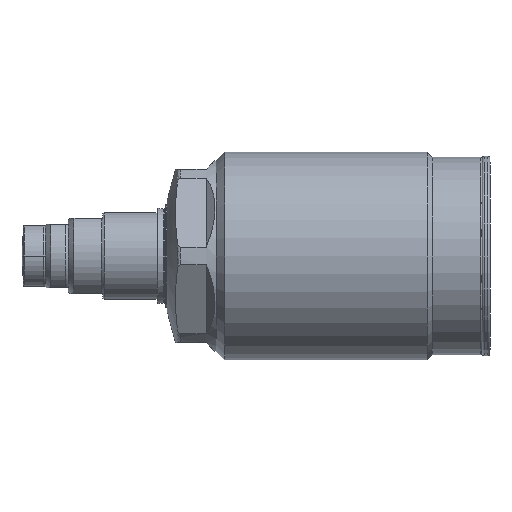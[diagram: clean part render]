
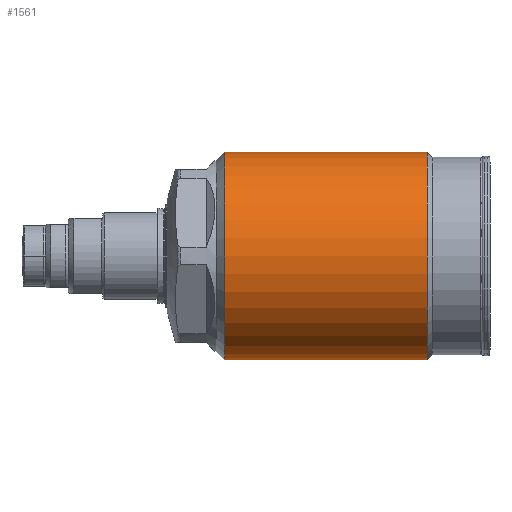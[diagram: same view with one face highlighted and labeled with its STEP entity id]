
A CAD part, left-side view. The second image highlights one B-rep face of the part: STEP entity #1561.
In plain terms, the highlighted cylindrical face has radius 18 mm (diameter 36 mm), a partial arc.
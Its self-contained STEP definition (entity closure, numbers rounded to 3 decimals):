
#662=CYLINDRICAL_SURFACE('',#6689,18.);
#945=LINE('',#10305,#1279);
#946=LINE('',#10309,#1280);
#1279=VECTOR('',#8167,1.);
#1280=VECTOR('',#8170,1.);
#1561=ADVANCED_FACE('',(#2028),#662,.T.);
#2028=FACE_OUTER_BOUND('',#2429,.T.);
#2429=EDGE_LOOP('',(#3495,#3496,#3497,#3498));
#3495=ORIENTED_EDGE('',*,*,#5371,.T.);
#3496=ORIENTED_EDGE('',*,*,#5439,.T.);
#3497=ORIENTED_EDGE('',*,*,#5373,.F.);
#3498=ORIENTED_EDGE('',*,*,#5438,.F.);
#4729=VERTEX_POINT('',#10300);
#4730=VERTEX_POINT('',#10302);
#4731=VERTEX_POINT('',#10306);
#4732=VERTEX_POINT('',#10308);
#5371=EDGE_CURVE('',#4731,#4729,#945,.T.);
#5373=EDGE_CURVE('',#4732,#4730,#946,.T.);
#5438=EDGE_CURVE('',#4731,#4732,#6008,.T.);
#5439=EDGE_CURVE('',#4729,#4730,#6009,.T.);
#6008=CIRCLE('',#6686,18.);
#6009=CIRCLE('',#6688,18.);
#6686=AXIS2_PLACEMENT_3D('',#10605,#8323,#8324);
#6688=AXIS2_PLACEMENT_3D('',#10607,#8327,#8328);
#6689=AXIS2_PLACEMENT_3D('',#10608,#8329,#8330);
#8167=DIRECTION('',(0.,1.,0.));
#8170=DIRECTION('',(0.,1.,0.));
#8323=DIRECTION('',(0.,-1.,0.));
#8324=DIRECTION('',(0.,0.,-1.));
#8327=DIRECTION('',(0.,-1.,0.));
#8328=DIRECTION('',(0.,0.,-1.));
#8329=DIRECTION('',(0.,-1.,0.));
#8330=DIRECTION('',(0.,0.,-1.));
#10300=CARTESIAN_POINT('',(0.,50.36,18.));
#10302=CARTESIAN_POINT('',(0.,50.36,-18.));
#10305=CARTESIAN_POINT('',(0.,0.,18.));
#10306=CARTESIAN_POINT('',(0.,15.36,18.));
#10308=CARTESIAN_POINT('',(0.,15.36,-18.));
#10309=CARTESIAN_POINT('',(0.,0.,-18.));
#10605=CARTESIAN_POINT('',(0.,15.36,0.));
#10607=CARTESIAN_POINT('',(0.,50.36,0.));
#10608=CARTESIAN_POINT('',(0.,0.,0.));
